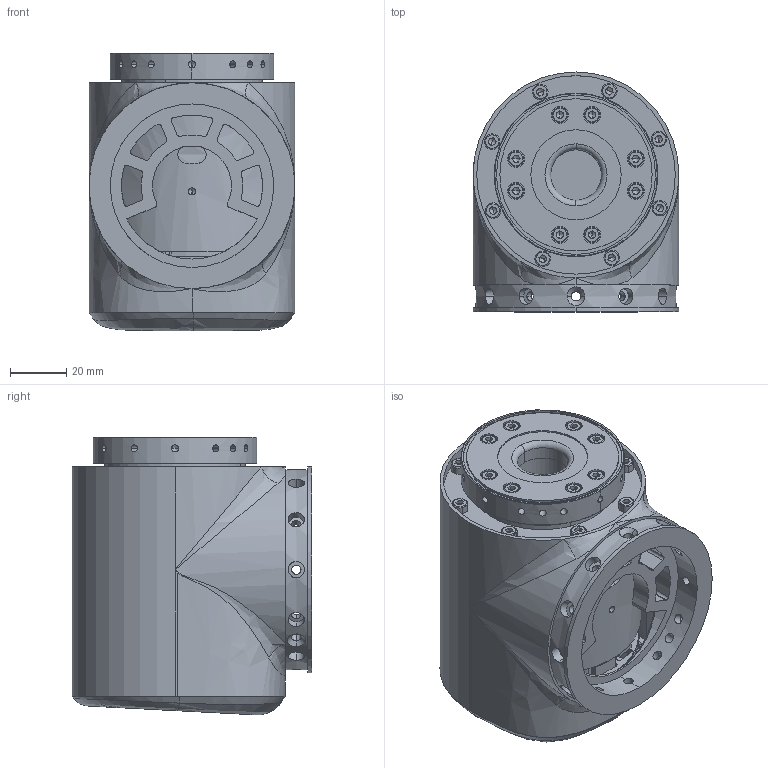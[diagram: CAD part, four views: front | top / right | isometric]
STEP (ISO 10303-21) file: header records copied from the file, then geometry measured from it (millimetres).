
FILE_DESCRIPTION (( 'STEP AP214' ), '1' );
FILE_NAME ('eRob70H｡ﾁ｡ﾁT.STEP', '2026-05-21T03:42:02', ( 'Windows User' ), ( 'P R C' ), 'SwSTEP 2.0', 'SolidWorks 2021', '' );
FILE_SCHEMA (( 'AUTOMOTIVE_DESIGN' ));
Length unit declared in the file: millimetre
Products named in the file (1): eRob70H℅℅T
Bounding box: 73 x 85 x 98.46 mm (x, y, z)
Volume: 320533.8 mm3; surface area: 95291.5 mm2
Topology: 22 solids, 45 shells, 3206 faces, 8480 edges, 5458 vertices
Faces by surface type: plane 2066, cylinder 565, bspline 363, cone 149, torus 51, sphere 12
Full cylindrical faces by diameter (mm): 3 x4, 3.4 x4, 5.8 x4, 18 x1
Entity records: 158718 total; most frequent: CARTESIAN_POINT 46009, ORIENTED_EDGE 16676, DIRECTION 14462, EDGE_CURVE 8338, LINE 6080, VECTOR 6080, VERTEX_POINT 5444, AXIS2_PLACEMENT_3D 4191
